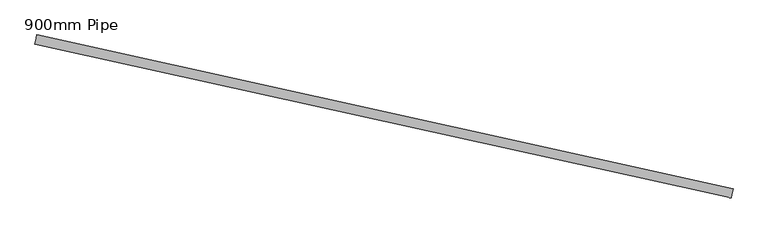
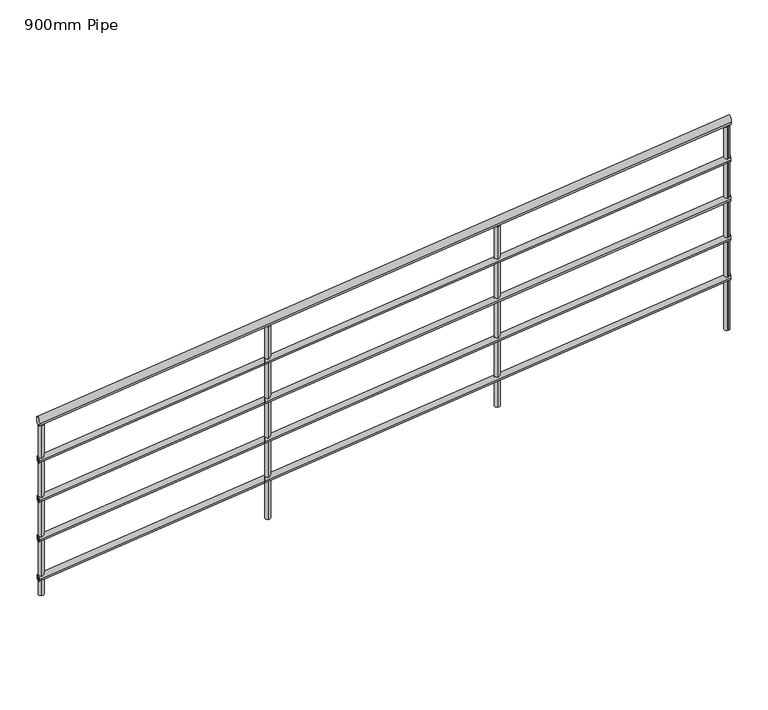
"""IFC4 building model written with IfcOpenShell, lengths in millimetres: railing geometry, 900mm Pipe."""

from ifc_helpers import new_model, si_unit, frame, origin, place, context, project, spatial, circle_curve, ellipse_curve, source, transform, mapped, element, save
from ifc_brep_helpers import plane_surface, cylinder_surface, advanced_brep


def railing_900mm_pipe_d7eef6c1(model_context):
    return source(origin(), model_context, "Body", "AdvancedBrep", [
        advanced_brep(
        [(877324.3771896, 73941.8070562, 4058.4278975), (877315.7193772, 73902.7552665, 4058.4278975), (880266.4310496, 73289.5514054, 4954.8984857), (880257.7732371, 73250.4996156, 4954.8984857)],
        [
            (0, 1, ellipse_curve(frame((877320.0482834, 73922.2811613, 4058.4278975), z_axis=(-0.9762947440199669, 0.21644531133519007, 0.0), x_axis=(0.0, 0.0, -1.0)), 20.8662201, 20.0)),
            (1, 0, ellipse_curve(frame((877320.0482834, 73922.2811613, 4058.4278975), z_axis=(-0.9762947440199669, 0.21644531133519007, 0.0), x_axis=(0.0, 0.0, -1.0)), 20.8662201, 20.0)),
            (2, 3, ellipse_curve(frame((880262.1021433, 73270.0255105, 4954.8984857), z_axis=(0.9762947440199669, -0.21644531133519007, 0.0), x_axis=(0.0, 0.0, -1.0)), 20.8662201, 20.0)),
            (3, 2, ellipse_curve(frame((880262.1021433, 73270.0255105, 4954.8984857), z_axis=(0.9762947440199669, -0.21644531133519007, 0.0), x_axis=(0.0, 0.0, -1.0)), 20.8662201, 20.0)),
            (0, 2),
            (3, 1),
        ],
        [
            plane_surface(frame((877320.0482834, 73922.2811613, 4079.2941176), z_axis=(-0.9762947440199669, 0.21644531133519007, 0.0), x_axis=(0.21644531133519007, 0.9762947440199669, 0.0))),
            plane_surface(frame((880262.1021433, 73270.0255105, 4975.7647059), z_axis=(0.9762947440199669, -0.21644531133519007, 0.0), x_axis=(0.21644531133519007, 0.9762947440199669, 0.0))),
            cylinder_surface(frame((877325.6158258, 73921.0468328, 4060.1243784), z_axis=(-0.9357657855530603, 0.20746000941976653, -0.2851363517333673), x_axis=(-0.2164453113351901, -0.976294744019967, 0.0)), 20.0),
        ],
        [
            (0, [[1, 2]]),
            (1, [[3, 4]]),
            (2, [[-1, 5, -4, 6]]),
            (2, [[-2, -6, -3, -5]]),
        ],
    ),
        advanced_brep(
        [(877323.2949631, 73936.9255825, 3863.6444525), (877316.8016037, 73907.6367402, 3863.6444525), (880265.348823, 73284.6699317, 4760.1150408), (880258.8554637, 73255.3810893, 4760.1150408)],
        [
            (0, 1, ellipse_curve(frame((877320.0482834, 73922.2811613, 3863.6444525), z_axis=(-0.9762947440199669, 0.21644531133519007, 0.0), x_axis=(0.0, 0.0, -1.0)), 15.6496651, 15.0)),
            (1, 0, ellipse_curve(frame((877320.0482834, 73922.2811613, 3863.6444525), z_axis=(-0.9762947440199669, 0.21644531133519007, 0.0), x_axis=(0.0, 0.0, -1.0)), 15.6496651, 15.0)),
            (2, 3, ellipse_curve(frame((880262.1021433, 73270.0255105, 4760.1150408), z_axis=(0.9762947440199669, -0.21644531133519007, 0.0), x_axis=(0.0, 0.0, -1.0)), 15.6496651, 15.0)),
            (3, 2, ellipse_curve(frame((880262.1021433, 73270.0255105, 4760.1150408), z_axis=(0.9762947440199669, -0.21644531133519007, 0.0), x_axis=(0.0, 0.0, -1.0)), 15.6496651, 15.0)),
            (0, 2),
            (3, 1),
        ],
        [
            plane_surface(frame((877320.0482834, 73922.2811613, 3879.2941176), z_axis=(-0.9762947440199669, 0.21644531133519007, 0.0), x_axis=(0.21644531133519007, 0.9762947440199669, 0.0))),
            plane_surface(frame((880262.1021433, 73270.0255105, 4775.7647059), z_axis=(0.9762947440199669, -0.21644531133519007, 0.0), x_axis=(0.21644531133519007, 0.9762947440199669, 0.0))),
            cylinder_surface(frame((877324.2239402, 73921.3554149, 3864.9168132), z_axis=(-0.9357657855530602, 0.2074600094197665, -0.28513635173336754), x_axis=(-0.2164453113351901, -0.976294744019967, 0.0)), 15.0),
        ],
        [
            (0, [[1, 2]]),
            (1, [[3, 4]]),
            (2, [[-1, 5, -4, 6]]),
            (2, [[-2, -6, -3, -5]]),
        ],
    ),
        advanced_brep(
        [(877323.2949631, 73936.9255825, 3663.6444525), (877316.8016037, 73907.6367402, 3663.6444525), (880265.348823, 73284.6699317, 4560.1150408), (880258.8554637, 73255.3810893, 4560.1150408)],
        [
            (0, 1, ellipse_curve(frame((877320.0482834, 73922.2811613, 3663.6444525), z_axis=(-0.9762947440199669, 0.21644531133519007, 0.0), x_axis=(0.0, 0.0, -1.0)), 15.6496651, 15.0)),
            (1, 0, ellipse_curve(frame((877320.0482834, 73922.2811613, 3663.6444525), z_axis=(-0.9762947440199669, 0.21644531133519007, 0.0), x_axis=(0.0, 0.0, -1.0)), 15.6496651, 15.0)),
            (2, 3, ellipse_curve(frame((880262.1021433, 73270.0255105, 4560.1150408), z_axis=(0.9762947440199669, -0.21644531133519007, 0.0), x_axis=(0.0, 0.0, -1.0)), 15.6496651, 15.0)),
            (3, 2, ellipse_curve(frame((880262.1021433, 73270.0255105, 4560.1150408), z_axis=(0.9762947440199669, -0.21644531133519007, 0.0), x_axis=(0.0, 0.0, -1.0)), 15.6496651, 15.0)),
            (0, 2),
            (3, 1),
        ],
        [
            plane_surface(frame((877320.0482834, 73922.2811613, 3679.2941176), z_axis=(-0.9762947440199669, 0.21644531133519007, 0.0), x_axis=(0.21644531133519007, 0.9762947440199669, 0.0))),
            plane_surface(frame((880262.1021433, 73270.0255105, 4575.7647059), z_axis=(0.9762947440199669, -0.21644531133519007, 0.0), x_axis=(0.21644531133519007, 0.9762947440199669, 0.0))),
            cylinder_surface(frame((877324.2239402, 73921.3554149, 3664.9168132), z_axis=(-0.9357657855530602, 0.2074600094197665, -0.28513635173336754), x_axis=(-0.2164453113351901, -0.976294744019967, 0.0)), 15.0),
        ],
        [
            (0, [[1, 2]]),
            (1, [[3, 4]]),
            (2, [[-1, 5, -4, 6]]),
            (2, [[-2, -6, -3, -5]]),
        ],
    ),
        advanced_brep(
        [(877323.2949631, 73936.9255825, 3463.6444525), (877316.8016037, 73907.6367402, 3463.6444525), (880265.348823, 73284.6699317, 4360.1150408), (880258.8554637, 73255.3810893, 4360.1150408)],
        [
            (0, 1, ellipse_curve(frame((877320.0482834, 73922.2811613, 3463.6444525), z_axis=(-0.9762947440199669, 0.21644531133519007, 0.0), x_axis=(0.0, 0.0, -1.0)), 15.6496651, 15.0)),
            (1, 0, ellipse_curve(frame((877320.0482834, 73922.2811613, 3463.6444525), z_axis=(-0.9762947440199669, 0.21644531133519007, 0.0), x_axis=(0.0, 0.0, -1.0)), 15.6496651, 15.0)),
            (2, 3, ellipse_curve(frame((880262.1021433, 73270.0255105, 4360.1150408), z_axis=(0.9762947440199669, -0.21644531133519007, 0.0), x_axis=(0.0, 0.0, -1.0)), 15.6496651, 15.0)),
            (3, 2, ellipse_curve(frame((880262.1021433, 73270.0255105, 4360.1150408), z_axis=(0.9762947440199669, -0.21644531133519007, 0.0), x_axis=(0.0, 0.0, -1.0)), 15.6496651, 15.0)),
            (0, 2),
            (3, 1),
        ],
        [
            plane_surface(frame((877320.0482834, 73922.2811613, 3479.2941176), z_axis=(-0.9762947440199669, 0.21644531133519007, 0.0), x_axis=(0.21644531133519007, 0.9762947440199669, 0.0))),
            plane_surface(frame((880262.1021433, 73270.0255105, 4375.7647059), z_axis=(0.9762947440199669, -0.21644531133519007, 0.0), x_axis=(0.21644531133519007, 0.9762947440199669, 0.0))),
            cylinder_surface(frame((877324.2239402, 73921.3554149, 3464.9168132), z_axis=(-0.9357657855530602, 0.2074600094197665, -0.28513635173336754), x_axis=(-0.2164453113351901, -0.976294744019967, 0.0)), 15.0),
        ],
        [
            (0, [[1, 2]]),
            (1, [[3, 4]]),
            (2, [[-1, 5, -4, 6]]),
            (2, [[-2, -6, -3, -5]]),
        ],
    ),
        advanced_brep(
        [(877323.2949631, 73936.9255825, 3263.6444525), (877316.8016037, 73907.6367402, 3263.6444525), (880265.348823, 73284.6699317, 4160.1150408), (880258.8554637, 73255.3810893, 4160.1150408)],
        [
            (0, 1, ellipse_curve(frame((877320.0482834, 73922.2811613, 3263.6444525), z_axis=(-0.9762947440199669, 0.21644531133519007, 0.0), x_axis=(0.0, 0.0, -1.0)), 15.6496651, 15.0)),
            (1, 0, ellipse_curve(frame((877320.0482834, 73922.2811613, 3263.6444525), z_axis=(-0.9762947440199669, 0.21644531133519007, 0.0), x_axis=(0.0, 0.0, -1.0)), 15.6496651, 15.0)),
            (2, 3, ellipse_curve(frame((880262.1021433, 73270.0255105, 4160.1150408), z_axis=(0.9762947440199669, -0.21644531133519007, 0.0), x_axis=(0.0, 0.0, -1.0)), 15.6496651, 15.0)),
            (3, 2, ellipse_curve(frame((880262.1021433, 73270.0255105, 4160.1150408), z_axis=(0.9762947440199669, -0.21644531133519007, 0.0), x_axis=(0.0, 0.0, -1.0)), 15.6496651, 15.0)),
            (0, 2),
            (3, 1),
        ],
        [
            plane_surface(frame((877320.0482834, 73922.2811613, 3279.2941176), z_axis=(-0.9762947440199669, 0.21644531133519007, 0.0), x_axis=(0.21644531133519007, 0.9762947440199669, 0.0))),
            plane_surface(frame((880262.1021433, 73270.0255105, 4175.7647059), z_axis=(0.9762947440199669, -0.21644531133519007, 0.0), x_axis=(0.21644531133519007, 0.9762947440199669, 0.0))),
            cylinder_surface(frame((877324.2239402, 73921.3554149, 3264.9168132), z_axis=(-0.9357657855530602, 0.2074600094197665, -0.28513635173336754), x_axis=(-0.2164453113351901, -0.976294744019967, 0.0)), 15.0),
        ],
        [
            (0, [[1, 2]]),
            (1, [[3, 4]]),
            (2, [[-1, 5, -4, 6]]),
            (2, [[-2, -6, -3, -5]]),
        ],
    ),
        advanced_brep(
        [(880246.2269491, 73260.741543, 4930.0193601), (880246.2269491, 73260.741543, 3896.4705882), (880251.6380819, 73285.1489116, 3896.4705882), (880251.6380819, 73285.1489116, 4930.0193601)],
        [
            (0, 1),
            (1, 2, circle_curve(frame((880248.9325155, 73272.9452273, 3896.4705882), z_axis=(0.0, 0.0, 1.0), x_axis=(0.2164453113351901, 0.9762947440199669, 0.0)), 12.5)),
            (2, 3),
            (3, 0, ellipse_curve(frame((880248.9325155, 73272.9452273, 4930.0193601), z_axis=(0.2783771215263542, -0.061716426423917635, -0.958486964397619), x_axis=(0.9357657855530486, -0.20746000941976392, 0.285136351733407)), 13.0413876, 12.5)),
            (0, 3, ellipse_curve(frame((880248.9325155, 73272.9452273, 4930.0193601), z_axis=(0.2783771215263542, -0.061716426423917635, -0.958486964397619), x_axis=(0.9357657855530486, -0.20746000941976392, 0.285136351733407)), 13.0413876, 12.5)),
            (2, 1, circle_curve(frame((880248.9325155, 73272.9452273, 3896.4705882), z_axis=(0.0, 0.0, 1.0), x_axis=(0.2164453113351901, 0.9762947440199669, 0.0)), 12.5)),
        ],
        [
            cylinder_surface(frame((880248.9325155, 73272.9452273, 3796.4705882), z_axis=(0.0, 0.0, 1.0), x_axis=(0.2164453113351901, 0.9762947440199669, 0.0)), 12.5),
            plane_surface(frame((880278.7510169, 73291.9414632, 4937.4565075), z_axis=(-0.2783771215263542, 0.061716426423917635, 0.958486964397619), x_axis=(-0.2164453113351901, -0.9762947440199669, 0.0))),
            plane_surface(frame((880229.9362797, 73302.7637287, 3896.4705882), z_axis=(0.0, 0.0, -1.0), x_axis=(-0.2164453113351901, -0.9762947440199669, 0.0))),
        ],
        [
            (0, [[1, 2, 3, 4]]),
            (0, [[-1, 5, -3, 6]]),
            (1, [[-4, -5]]),
            (2, [[-2, -6]]),
        ],
    ),
        advanced_brep(
        [(879269.9322051, 73477.1868544, 4632.5334659), (879269.9322051, 73477.1868544, 3717.1764706), (879275.3433378, 73501.594223, 3717.1764706), (879275.3433378, 73501.594223, 4632.5334659)],
        [
            (0, 1),
            (1, 2, circle_curve(frame((879272.6377714, 73489.3905387, 3717.1764706), z_axis=(0.0, 0.0, 1.0), x_axis=(0.2164453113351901, 0.9762947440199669, 0.0)), 12.5)),
            (2, 3),
            (3, 0, ellipse_curve(frame((879272.6377714, 73489.3905387, 4632.5334659), z_axis=(0.2783771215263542, -0.061716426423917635, -0.958486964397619), x_axis=(0.9357657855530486, -0.20746000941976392, 0.285136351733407)), 13.0413876, 12.5)),
            (0, 3, ellipse_curve(frame((879272.6377714, 73489.3905387, 4632.5334659), z_axis=(0.2783771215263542, -0.061716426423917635, -0.958486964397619), x_axis=(0.9357657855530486, -0.20746000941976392, 0.285136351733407)), 13.0413876, 12.5)),
            (2, 1, circle_curve(frame((879272.6377714, 73489.3905387, 3717.1764706), z_axis=(0.0, 0.0, 1.0), x_axis=(0.2164453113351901, 0.9762947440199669, 0.0)), 12.5)),
        ],
        [
            cylinder_surface(frame((879272.6377714, 73489.3905387, 3617.1764706), z_axis=(0.0, 0.0, 1.0), x_axis=(0.2164453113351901, 0.9762947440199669, 0.0)), 12.5),
            plane_surface(frame((879302.4562728, 73508.3867745, 4639.9706132), z_axis=(-0.2783771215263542, 0.061716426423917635, 0.958486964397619), x_axis=(-0.2164453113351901, -0.9762947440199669, 0.0))),
            plane_surface(frame((879253.6415356, 73519.2090401, 3717.1764706), z_axis=(0.0, 0.0, -1.0), x_axis=(-0.2164453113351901, -0.9762947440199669, 0.0))),
        ],
        [
            (0, [[1, 2, 3, 4]]),
            (0, [[-1, 5, -3, 6]]),
            (1, [[-4, -5]]),
            (2, [[-2, -6]]),
        ],
    ),
        advanced_brep(
        [(878293.637461, 73693.6321657, 4335.0475716), (878293.637461, 73693.6321657, 3358.5882353), (878299.0485938, 73718.0395343, 3358.5882353), (878299.0485938, 73718.0395343, 4335.0475716)],
        [
            (0, 1),
            (1, 2, circle_curve(frame((878296.3430274, 73705.83585, 3358.5882353), z_axis=(0.0, 0.0, 1.0), x_axis=(0.2164453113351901, 0.9762947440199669, 0.0)), 12.5)),
            (2, 3),
            (3, 0, ellipse_curve(frame((878296.3430274, 73705.83585, 4335.0475716), z_axis=(0.2783771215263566, -0.06171642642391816, -0.9584869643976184), x_axis=(0.9357657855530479, -0.20746000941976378, 0.28513635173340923)), 13.0413876, 12.5)),
            (0, 3, ellipse_curve(frame((878296.3430274, 73705.83585, 4335.0475716), z_axis=(0.2783771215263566, -0.06171642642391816, -0.9584869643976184), x_axis=(0.9357657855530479, -0.20746000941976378, 0.28513635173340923)), 13.0413876, 12.5)),
            (2, 1, circle_curve(frame((878296.3430274, 73705.83585, 3358.5882353), z_axis=(0.0, 0.0, 1.0), x_axis=(0.2164453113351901, 0.9762947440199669, 0.0)), 12.5)),
        ],
        [
            cylinder_surface(frame((878296.3430274, 73705.83585, 3258.5882353), z_axis=(0.0, 0.0, 1.0), x_axis=(0.2164453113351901, 0.9762947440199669, 0.0)), 12.5),
            plane_surface(frame((878326.1615288, 73724.8320858, 4342.484719), z_axis=(-0.2783771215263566, 0.06171642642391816, 0.9584869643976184), x_axis=(-0.2164453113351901, -0.9762947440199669, 0.0))),
            plane_surface(frame((878277.3467916, 73735.6543514, 3358.5882353), z_axis=(0.0, 0.0, -1.0), x_axis=(-0.2164453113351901, -0.9762947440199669, 0.0))),
        ],
        [
            (0, [[1, 2, 3, 4]]),
            (0, [[-1, 5, -3, 6]]),
            (1, [[-4, -5]]),
            (2, [[-2, -6]]),
        ],
    ),
        advanced_brep(
        [(880247.1928927, 73260.5273926, 4930.3136919), (880247.1928927, 73260.5273926, 3896.4705882), (880252.6040254, 73284.9347612, 3896.4705882), (880252.6040254, 73284.9347612, 4930.3136919)],
        [
            (0, 1),
            (1, 2, circle_curve(frame((880249.898459, 73272.7310769, 3896.4705882), z_axis=(0.0, 0.0, 1.0), x_axis=(0.2164453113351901, 0.9762947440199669, 0.0)), 12.5)),
            (2, 3),
            (3, 0, ellipse_curve(frame((880249.898459, 73272.7310769, 4930.3136919), z_axis=(0.2783771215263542, -0.061716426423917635, -0.958486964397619), x_axis=(0.9357657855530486, -0.20746000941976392, 0.285136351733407)), 13.0413876, 12.5)),
            (0, 3, ellipse_curve(frame((880249.898459, 73272.7310769, 4930.3136919), z_axis=(0.2783771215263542, -0.061716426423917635, -0.958486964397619), x_axis=(0.9357657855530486, -0.20746000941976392, 0.285136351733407)), 13.0413876, 12.5)),
            (2, 1, circle_curve(frame((880249.898459, 73272.7310769, 3896.4705882), z_axis=(0.0, 0.0, 1.0), x_axis=(0.2164453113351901, 0.9762947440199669, 0.0)), 12.5)),
        ],
        [
            cylinder_surface(frame((880249.898459, 73272.7310769, 3796.4705882), z_axis=(0.0, 0.0, 1.0), x_axis=(0.2164453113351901, 0.9762947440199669, 0.0)), 12.5),
            plane_surface(frame((880279.7169604, 73291.7273127, 4937.7508393), z_axis=(-0.2783771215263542, 0.061716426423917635, 0.958486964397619), x_axis=(-0.2164453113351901, -0.9762947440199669, 0.0))),
            plane_surface(frame((880230.9022232, 73302.5495783, 3896.4705882), z_axis=(0.0, 0.0, -1.0), x_axis=(-0.2164453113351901, -0.9762947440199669, 0.0))),
        ],
        [
            (0, [[1, 2, 3, 4]]),
            (0, [[-1, 5, -3, 6]]),
            (1, [[-4, -5]]),
            (2, [[-2, -6]]),
        ],
    ),
        advanced_brep(
        [(877329.5464013, 73907.3719107, 4041.280251), (877329.5464013, 73907.3719107, 3179.2941176), (877334.9575341, 73931.7792793, 3179.2941176), (877334.9575341, 73931.7792793, 4041.280251)],
        [
            (0, 1),
            (1, 2, circle_curve(frame((877332.2519677, 73919.575595, 3179.2941176), z_axis=(0.0, 0.0, 1.0), x_axis=(0.2164453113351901, 0.9762947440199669, 0.0)), 12.5)),
            (2, 3),
            (3, 0, ellipse_curve(frame((877332.2519677, 73919.575595, 4041.280251), z_axis=(0.2783771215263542, -0.061716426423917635, -0.958486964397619), x_axis=(0.9357657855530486, -0.20746000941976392, 0.285136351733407)), 13.0413876, 12.5)),
            (0, 3, ellipse_curve(frame((877332.2519677, 73919.575595, 4041.280251), z_axis=(0.2783771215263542, -0.061716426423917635, -0.958486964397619), x_axis=(0.9357657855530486, -0.20746000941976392, 0.285136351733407)), 13.0413876, 12.5)),
            (2, 1, circle_curve(frame((877332.2519677, 73919.575595, 3179.2941176), z_axis=(0.0, 0.0, 1.0), x_axis=(0.2164453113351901, 0.9762947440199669, 0.0)), 12.5)),
        ],
        [
            cylinder_surface(frame((877332.2519677, 73919.575595, 3079.2941176), z_axis=(0.0, 0.0, 1.0), x_axis=(0.2164453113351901, 0.9762947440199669, 0.0)), 12.5),
            plane_surface(frame((877362.0704691, 73938.5718308, 4048.7173984), z_axis=(-0.2783771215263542, 0.061716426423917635, 0.958486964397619), x_axis=(-0.2164453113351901, -0.9762947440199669, 0.0))),
            plane_surface(frame((877313.2557319, 73949.3940963, 3179.2941176), z_axis=(0.0, 0.0, -1.0), x_axis=(-0.2164453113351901, -0.9762947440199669, 0.0))),
        ],
        [
            (0, [[1, 2, 3, 4]]),
            (0, [[-1, 5, -3, 6]]),
            (1, [[-4, -5]]),
            (2, [[-2, -6]]),
        ],
    ),
    ])


if __name__ == "__main__":
    model = new_model("IFC4")
    model_context = context("Model", 3, world=origin())
    ifc_project = project(units=[si_unit("LENGTHUNIT", "METRE", prefix="MILLI")], contexts=[model_context])
    site = spatial("IfcSite", under=ifc_project)
    building = spatial("IfcBuilding", under=site)
    placement = place(None, origin())
    railing_900mm_pipe_shape = railing_900mm_pipe_d7eef6c1(model_context)
    element("IfcRailing", 1, ObjectType="900mm Pipe", at=placement, inside=building, context=model_context, shape_type="MappedRepresentation", body=[
        mapped(railing_900mm_pipe_shape, transform((0.0, 0.0, 0.0), x_axis=(1.0, 0.0, 0.0), y_axis=(0.0, 1.0, 0.0), z_axis=(0.0, 0.0, 1.0))),
    ])
    save(model, "model.ifc")
